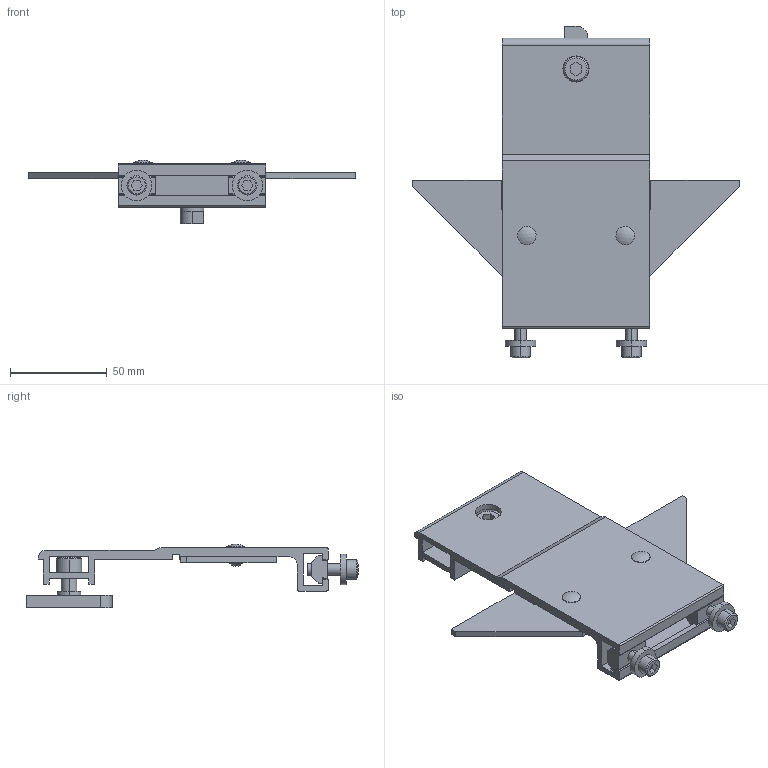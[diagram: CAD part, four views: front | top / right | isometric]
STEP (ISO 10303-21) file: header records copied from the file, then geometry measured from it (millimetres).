
FILE_DESCRIPTION((''),'2;1');
FILE_NAME('350703_ASM','2023-03-03T',('jenni.wallner'),(''),'PRO/ENGINEER BY PARAMETRIC TECHNOLOGY CORPORATION, 2012420','PRO/ENGINEER BY PARAMETRIC TECHNOLOGY CORPORATION, 2012420','');
FILE_SCHEMA(('CONFIG_CONTROL_DESIGN'));
Length unit declared in the file: inch
Products named in the file (10): 240835_CAE; 639971M_CAE; 914-006; 350533_CAE; 350534_CAE; X920620M; 605279P; X920816M; ASM0001_ASM; 350703_ASM
Assembly tree (13 placements, depth 3):
  350703_ASM
    ASM0001_ASM
      240835_CAE
      639971M_CAE  x2
      914-006  x2
      350533_CAE
      350534_CAE
      X920620M  x2
      605279P  x2
      X920816M
Bounding box: 168.91 x 171.46 x 32.77 mm (x, y, z)
Volume: 97096.7 mm3; surface area: 57590.1 mm2
Topology: 12 solids, 12 shells, 221 faces, 555 edges, 364 vertices
Faces by surface type: plane 122, cylinder 81, cone 12, bspline 4, sphere 2
Entity records: 5240 total; most frequent: CARTESIAN_POINT 921, DIRECTION 915, ORIENTED_EDGE 810, EDGE_CURVE 405, AXIS2_PLACEMENT_3D 317, VECTOR 281, LINE 281, VERTEX_POINT 267
